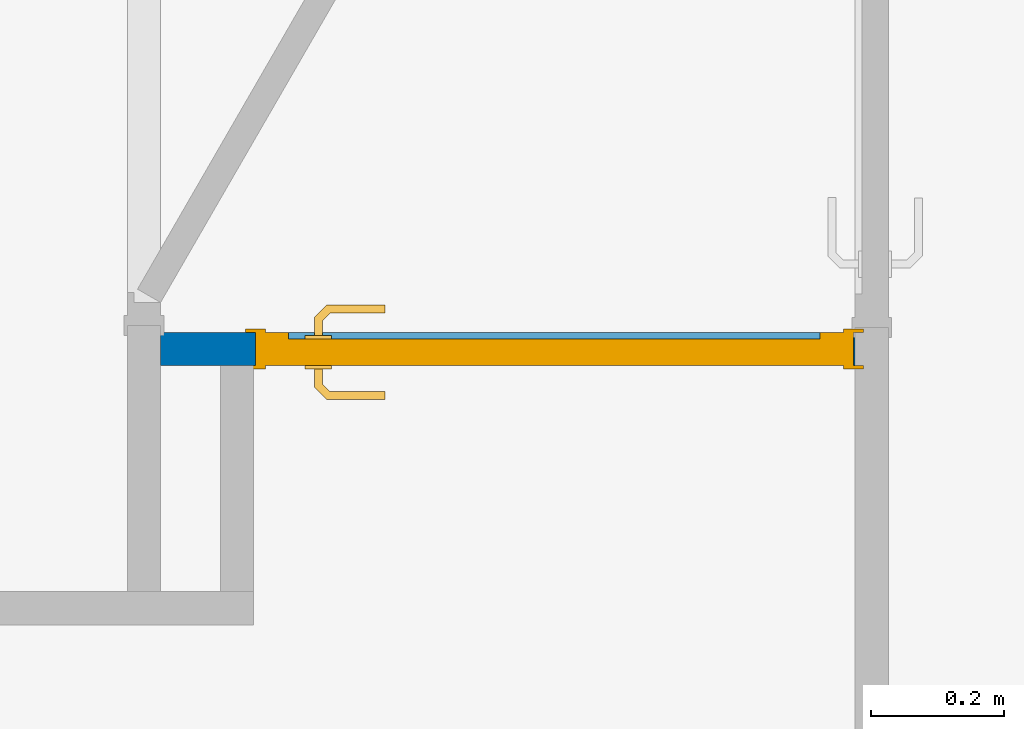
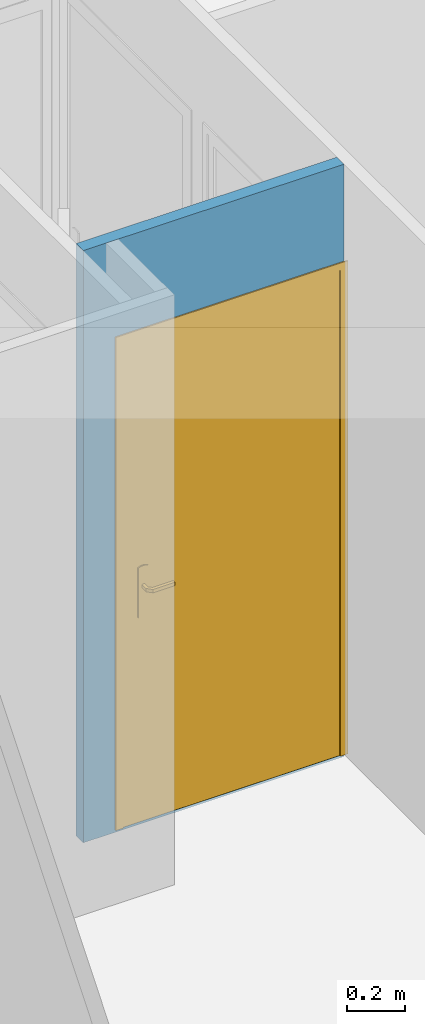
# One storey, part 2 of 13: 1 door, 1 wall, 1 opening.
"""IFC2X3 building model written with IfcOpenShell, lengths in metres."""

from ifc_helpers import new_model, entity, si_unit, converted_unit, derived_unit, direction, frame, frame_2d, origin, place, context, subcontext, project, spatial, rectangle, extrude, faceted_brep, source, transform, mapped, material, material_list, layer, layer_set, layer_usage, type_object, type_shapes, element, fill, save


model = new_model("IFC2X3")

# Units and contexts
model_context = context("Model", 3, precision=1e-05, world=origin(), true_north=direction((6.12303176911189e-17, 1.0)))
body_context = subcontext(model_context, "Body", "Model", "MODEL_VIEW")
ifc_project = project(units=[si_unit("LENGTHUNIT", "METRE"), si_unit("AREAUNIT", "SQUARE_METRE"), si_unit("VOLUMEUNIT", "CUBIC_METRE"), converted_unit("PLANEANGLEUNIT", "DEGREE", entity("IfcRatioMeasure", 0.0174532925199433), si_unit("PLANEANGLEUNIT", "RADIAN"), dimensions=[0, 0, 0, 0, 0, 0, 0]), si_unit("MASSUNIT", "GRAM", prefix="KILO"), si_unit("TIMEUNIT", "SECOND"), si_unit("FREQUENCYUNIT", "HERTZ"), si_unit("THERMODYNAMICTEMPERATUREUNIT", "DEGREE_CELSIUS"), derived_unit("THERMALTRANSMITTANCEUNIT", [(si_unit("MASSUNIT", "GRAM", prefix="KILO"), 1), (si_unit("THERMODYNAMICTEMPERATUREUNIT", "KELVIN"), -1), (si_unit("TIMEUNIT", "SECOND"), -3)]), derived_unit("VOLUMETRICFLOWRATEUNIT", [(si_unit("LENGTHUNIT", "METRE"), 3), (si_unit("TIMEUNIT", "SECOND"), -1)]), si_unit("ELECTRICCURRENTUNIT", "AMPERE"), si_unit("ELECTRICVOLTAGEUNIT", "VOLT"), si_unit("POWERUNIT", "WATT"), si_unit("FORCEUNIT", "NEWTON", prefix="KILO"), si_unit("ILLUMINANCEUNIT", "LUX"), si_unit("LUMINOUSFLUXUNIT", "LUMEN"), si_unit("LUMINOUSINTENSITYUNIT", "CANDELA"), derived_unit("USERDEFINED", [(si_unit("MASSUNIT", "GRAM", prefix="KILO"), -1), (si_unit("LENGTHUNIT", "METRE"), -2), (si_unit("TIMEUNIT", "SECOND"), 3), (si_unit("LUMINOUSFLUXUNIT", "LUMEN"), 1)]), derived_unit("LINEARVELOCITYUNIT", [(si_unit("LENGTHUNIT", "METRE"), 1), (si_unit("TIMEUNIT", "SECOND"), -1)]), si_unit("PRESSUREUNIT", "PASCAL"), derived_unit("USERDEFINED", [(si_unit("LENGTHUNIT", "METRE"), -2), (si_unit("MASSUNIT", "GRAM", prefix="KILO"), 1), (si_unit("TIMEUNIT", "SECOND"), -2)])], contexts=[model_context])

# Site, building, storey
site_placement = place(None, origin())
site = spatial("IfcSite", under=ifc_project, at=site_placement, Name="Surface", CompositionType="ELEMENT")
building_placement = place(site_placement, origin())
building = spatial("IfcBuilding", under=site, at=building_placement, CompositionType="ELEMENT")
storey_placement = place(building_placement, frame((0.0, 0.0, 2.74)))
storey = spatial("IfcBuildingStorey", under=building, at=storey_placement, Name="Plan étage", CompositionType="ELEMENT", Elevation=2.74)

# Wall, opening, door
ifc_material_1 = material(Name="Maçonnerie - Isolant(1)")
ifc_layer = layer(ifc_material_1, 0.05)
ifc_layer_set = layer_set([ifc_layer], Name="Mur de base:Int. plâtre 50 mm")
ifc_layer_usage = layer_usage(ifc_layer_set, "AXIS2", "NEGATIVE", 0.025)
wall_type = type_object("IfcWallType", Name="Mur de base:Int. plâtre 50 mm", PredefinedType="STANDARD", material=ifc_layer_set)
wall_placement = place(storey_placement, frame((-9.24108881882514, 0.439255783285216, -0.00999999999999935)))
wall = element("IfcWallStandardCase", 1, at=wall_placement, inside=storey, type_object=wall_type, material=ifc_layer_usage, Name="Mur de base:Int. plâtre 50 mm", ObjectType="Mur de base:Int. plâtre 50 mm", context=body_context, shape_type="SweptSolid", body=[
    extrude(rectangle(XDim=1.045, YDim=0.05, at=frame_2d((0.522499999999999, 0.0), x_axis=(-1.0, 0.0))), origin(), (0.0, 0.0, 1.0), 2.51),
])
opening_placement = place(wall_placement, frame((1.04250000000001, 0.025, 0.00999999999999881)))
opening = element("IfcOpeningElement", 2, at=opening_placement, cuts=wall, Name="Int. Simple:PP (0.83m x 2.04m):1", ObjectType="Opening", context=body_context, shape_type="SweptSolid", body=[
    extrude(rectangle(XDim=2.075, YDim=0.9, at=frame_2d((1.0375, 0.45), x_axis=(1.0, 0.0))), frame((0.0, 0.0, 0.0), z_axis=(0.0, -1.0, 0.0), x_axis=(0.0, 0.0, 1.0)), (0.0, 0.0, 1.0), 0.05),
])
ifc_material_2 = material(Name="Finition Peinture - Blanc satiné")
ifc_material_3 = material(Name="Bois - Panneau de porte")
ifc_material_4 = material(Name="Bois - Cadre de porte")
ifc_material_list_1 = material_list([ifc_material_2, ifc_material_3, ifc_material_4])
ifc_material_list_2 = material_list([ifc_material_2, ifc_material_3, ifc_material_4])
door_style = type_object("IfcDoorStyle", Name="PP (0.83m x 2.04m)", ConstructionType="NOTDEFINED", OperationType="SINGLE_SWING_LEFT", ParameterTakesPrecedence=False, Sizeable=False, material=ifc_material_list_2)
shared_shape = source(origin(), body_context, "Body", "Brep", [
    faceted_brep([(0.105352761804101, -0.00500000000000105, 0.866003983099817), (0.115, -0.00500000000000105, 0.870000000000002), (0.114999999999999, -0.00500000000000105, 1.08), (0.1053527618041, -0.00500000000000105, 1.08399601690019), (0.0949999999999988, -0.00500000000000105, 1.08535898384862), (0.0846472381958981, -0.00500000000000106, 1.08399601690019), (0.0749999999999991, -0.00500000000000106, 1.08), (0.0750000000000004, -0.00500000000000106, 0.870000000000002), (0.0846472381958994, -0.00500000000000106, 0.866003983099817), (0.0950000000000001, -0.00500000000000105, 0.86464101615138), (0.1053527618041, 0.0, 1.08399601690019), (0.114999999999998, 0.0, 1.08), (0.115, 0.0, 0.870000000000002), (0.105352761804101, 0.0, 0.866003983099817), (0.0950000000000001, 0.0, 0.86464101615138), (0.0846472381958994, 0.0, 0.866003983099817), (0.0749999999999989, 0.0, 0.870000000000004), (0.0749999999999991, 0.0, 1.08), (0.0846472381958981, 0.0, 1.08399601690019), (0.0949999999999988, 0.0, 1.08535898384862)], [[[0, 1, 2, 3, 4, 5, 6, 7, 8, 9]], [[10, 11, 12, 13, 14, 15, 16, 17, 18, 19]], [[16, 15, 8, 7]], [[8, 15, 14, 9]], [[14, 13, 0, 9]], [[13, 12, 1, 0]], [[2, 1, 12, 11]], [[11, 10, 3, 2]], [[3, 10, 19, 4]], [[19, 18, 5, 4]], [[18, 17, 6, 5]], [[7, 6, 17, 16]]]),
    faceted_brep([(0.105352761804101, 0.0399999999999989, 0.866003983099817), (0.115, 0.0399999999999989, 0.870000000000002), (0.114999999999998, 0.0399999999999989, 1.08), (0.105352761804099, 0.0399999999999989, 1.08399601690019), (0.0949999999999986, 0.0399999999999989, 1.08535898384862), (0.084647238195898, 0.0399999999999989, 1.08399601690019), (0.0749999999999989, 0.0399999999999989, 1.08), (0.0750000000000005, 0.0399999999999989, 0.870000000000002), (0.0846472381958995, 0.0399999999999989, 0.866003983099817), (0.0950000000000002, 0.0399999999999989, 0.86464101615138), (0.105352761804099, 0.0449999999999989, 1.08399601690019), (0.114999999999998, 0.0449999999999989, 1.08), (0.115, 0.0449999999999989, 0.870000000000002), (0.105352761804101, 0.0449999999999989, 0.866003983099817), (0.0950000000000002, 0.0449999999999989, 0.86464101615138), (0.0846472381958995, 0.0449999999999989, 0.866003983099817), (0.0749999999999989, 0.0449999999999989, 0.870000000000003), (0.0749999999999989, 0.0449999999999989, 1.08), (0.084647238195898, 0.0449999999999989, 1.08399601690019), (0.0949999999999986, 0.0449999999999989, 1.08535898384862)], [[[0, 1, 2, 3, 4, 5, 6, 7, 8, 9]], [[10, 11, 12, 13, 14, 15, 16, 17, 18, 19]], [[11, 10, 3, 2]], [[3, 10, 19, 4]], [[19, 18, 5, 4]], [[18, 17, 6, 5]], [[7, 6, 17, 16]], [[16, 15, 8, 7]], [[8, 15, 14, 9]], [[14, 13, 0, 9]], [[13, 12, 1, 0]], [[2, 1, 12, 11]]]),
    faceted_brep([(0.0929747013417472, -0.00500000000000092, 1.00778044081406), (0.0970252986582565, -0.0050000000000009, 1.00778044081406), (0.101000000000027, -0.00500000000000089, 1.00699999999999), (0.101000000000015, -0.00500000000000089, 0.993000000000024), (0.0970252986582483, -0.0050000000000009, 0.992219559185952), (0.0929747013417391, -0.00500000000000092, 0.99221955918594), (0.0889999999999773, -0.00500000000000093, 0.992999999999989), (0.0889999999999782, -0.00500000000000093, 1.007), (0.0889999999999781, -0.0326509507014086, 1.007), (0.092974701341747, -0.0310045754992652, 1.00778044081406), (0.10902358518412, -0.0470534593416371, 1.00778044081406), (0.110701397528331, -0.0430028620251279, 1.00778044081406), (0.0970252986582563, -0.0293267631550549, 1.00778044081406), (0.101000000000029, -0.0276803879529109, 1.007), (0.101000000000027, -0.0276803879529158, 0.993000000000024), (0.0970252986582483, -0.0293267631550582, 0.992219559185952), (0.110701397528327, -0.0430028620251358, 0.992219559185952), (0.109023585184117, -0.047053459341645, 0.99221955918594), (0.0929747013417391, -0.0310045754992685, 0.99221955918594), (0.0889999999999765, -0.0326509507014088, 0.992999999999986), (0.107377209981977, -0.0510281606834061, 1.007), (0.112347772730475, -0.0390281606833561, 1.007), (0.112347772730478, -0.0390281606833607, 0.993000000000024), (0.107377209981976, -0.0510281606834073, 0.992999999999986), (0.195018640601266, -0.0510281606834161, 0.992999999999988), (0.195018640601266, -0.0470534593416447, 0.99221955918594), (0.195018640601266, -0.0430028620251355, 0.992219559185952), (0.195018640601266, -0.039028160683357, 0.993000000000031), (0.195018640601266, -0.0390281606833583, 1.007), (0.195018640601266, -0.0430028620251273, 1.00778044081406), (0.195018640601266, -0.0470534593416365, 1.00778044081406), (0.195018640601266, -0.0510281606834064, 1.00699999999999), (0.147307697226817, -0.0510281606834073, 1.007), (0.152860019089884, -0.045028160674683, 1.0078786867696), (0.15368320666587, -0.039028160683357, 1.007), (0.153683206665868, -0.0390281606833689, 0.993000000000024), (0.152860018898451, -0.0450281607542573, 0.992121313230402), (0.147307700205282, -0.0510281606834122, 0.992999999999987)], [[[0, 1, 2, 3, 4, 5, 6, 7]], [[8, 9, 0, 7]], [[9, 10, 11, 12, 1, 0]], [[12, 13, 2, 1]], [[3, 2, 13, 14]], [[14, 15, 4, 3]], [[15, 16, 17, 18, 5, 4]], [[18, 19, 6, 5]], [[7, 6, 19, 8]], [[20, 10, 9, 8]], [[11, 21, 13, 12]], [[14, 13, 21, 22]], [[22, 16, 15, 14]], [[17, 23, 19, 18]], [[8, 19, 23, 20]], [[24, 25, 26, 27, 28, 29, 30, 31]], [[32, 30, 33]], [[31, 30, 32]], [[10, 20, 32]], [[33, 34, 11]], [[21, 11, 34]], [[34, 29, 28]], [[30, 29, 33]], [[29, 34, 33]], [[10, 32, 33]], [[10, 33, 11]], [[22, 21, 34, 28, 27, 35]], [[35, 26, 36]], [[37, 36, 25]], [[22, 35, 16]], [[35, 27, 26]], [[24, 37, 25]], [[23, 17, 37]], [[37, 17, 36]], [[17, 16, 36]], [[16, 35, 36]], [[25, 36, 26]], [[20, 23, 37, 24, 31, 32]]]),
    faceted_brep([(0.0929747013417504, 0.0449999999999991, 1.00778044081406), (0.0889999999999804, 0.044999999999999, 1.007), (0.0889999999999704, 0.044999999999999, 0.992999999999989), (0.0929747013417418, 0.0449999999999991, 0.99221955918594), (0.0970252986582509, 0.0449999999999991, 0.992219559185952), (0.10100000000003, 0.0449999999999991, 0.993000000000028), (0.101000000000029, 0.0449999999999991, 1.007), (0.0970252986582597, 0.0449999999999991, 1.00778044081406), (0.10100000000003, 0.067485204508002, 0.993000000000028), (0.10100000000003, 0.0674852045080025, 1.007), (0.0970252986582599, 0.0691315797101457, 1.00778044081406), (0.110838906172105, 0.0829451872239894, 1.00778044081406), (0.109161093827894, 0.0869957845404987, 1.00778044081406), (0.0929747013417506, 0.070809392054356, 1.00778044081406), (0.0889999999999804, 0.0724557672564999, 1.007), (0.0889999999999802, 0.072455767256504, 0.992999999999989), (0.0929747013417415, 0.0708093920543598, 0.99221955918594), (0.109161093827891, 0.0869957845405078, 0.99221955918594), (0.110838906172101, 0.0829451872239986, 0.992219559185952), (0.0970252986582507, 0.0691315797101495, 0.992219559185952), (0.112485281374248, 0.0789704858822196, 0.993000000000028), (0.112485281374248, 0.0789704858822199, 1.007), (0.107514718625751, 0.0909704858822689, 1.007), (0.107514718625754, 0.090970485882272, 0.992999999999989), (0.195045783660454, 0.0789704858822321, 0.993000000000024), (0.195045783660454, 0.0829451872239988, 0.992219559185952), (0.195045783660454, 0.086995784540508, 0.99221955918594), (0.195045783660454, 0.0909704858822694, 0.992999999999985), (0.195045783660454, 0.0909704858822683, 1.007), (0.195045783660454, 0.0869957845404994, 1.00778044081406), (0.195045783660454, 0.0829451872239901, 1.00778044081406), (0.195045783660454, 0.0789704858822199, 1.007), (0.153765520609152, 0.0789704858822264, 0.993000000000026), (0.153765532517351, 0.0789704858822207, 1.007), (0.152942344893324, 0.0849704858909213, 1.0078786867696), (0.147445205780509, 0.0909704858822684, 1.007), (0.147445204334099, 0.0909704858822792, 0.992999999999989), (0.152942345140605, 0.0849704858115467, 0.992121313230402)], [[[0, 1, 2, 3, 4, 5, 6, 7]], [[6, 5, 8, 9]], [[9, 10, 7, 6]], [[10, 11, 12, 13, 0, 7]], [[13, 14, 1, 0]], [[2, 1, 14, 15]], [[15, 16, 3, 2]], [[16, 17, 18, 19, 4, 3]], [[19, 8, 5, 4]], [[9, 8, 20, 21]], [[21, 11, 10, 9]], [[12, 22, 14, 13]], [[15, 14, 22, 23]], [[23, 17, 16, 15]], [[18, 20, 8, 19]], [[24, 25, 26, 27, 28, 29, 30, 31]], [[21, 20, 32, 24, 31, 33]], [[33, 30, 34]], [[35, 34, 29]], [[21, 33, 11]], [[33, 31, 30]], [[28, 35, 29]], [[22, 12, 35]], [[35, 12, 34]], [[12, 11, 34]], [[11, 33, 34]], [[29, 34, 30]], [[22, 35, 28, 27, 36, 23]], [[36, 26, 37]], [[27, 26, 36]], [[17, 23, 36]], [[37, 32, 18]], [[20, 18, 32]], [[32, 25, 24]], [[26, 25, 37]], [[25, 32, 37]], [[17, 36, 37]], [[17, 37, 18]]]),
    faceted_brep([(0.034999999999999, 0.04, 2.04), (0.865, 0.04, 2.04), (0.864999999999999, 0.04, 0.0), (0.034999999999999, 0.04, 0.0), (0.034999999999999, 0.0, 2.04), (0.034999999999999, 0.0, 0.0), (0.864999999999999, 0.0, 0.0), (0.865, 0.0, 2.04)], [[[0, 1, 2, 3]], [[4, 5, 6, 7]], [[1, 0, 4, 7]], [[2, 1, 7, 6]], [[3, 2, 6, 5]], [[0, 3, 5, 4]]]),
    faceted_brep([(0.0, 0.0, 0.0), (0.0, 0.050000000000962, 0.0), (0.0499999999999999, 0.050000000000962, 0.0), (0.0499999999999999, 0.040000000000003, 0.0), (0.0349999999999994, 0.040000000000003, 0.0), (0.0349999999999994, 0.0, 0.0), (0.0, 0.0, 2.07500000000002), (0.0, 0.050000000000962, 2.07500000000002), (0.900000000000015, 0.050000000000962, 2.07500000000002), (0.900000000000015, 0.050000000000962, 0.0), (0.85, 0.050000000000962, 0.0), (0.85, 0.050000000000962, 2.025), (0.0500000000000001, 0.050000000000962, 2.025), (0.05, 0.040000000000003, 2.025), (0.85, 0.040000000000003, 2.025), (0.85, 0.040000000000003, 0.0), (0.865, 0.040000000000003, 0.0), (0.865, 0.040000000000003, 2.04), (0.0349999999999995, 0.040000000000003, 2.04), (0.0349999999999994, 0.0, 2.04), (0.865, 0.0, 2.04), (0.865, 0.0, 0.0), (0.900000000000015, 0.0, 0.0), (0.900000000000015, 0.0, 2.07500000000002)], [[[0, 1, 2, 3, 4, 5]], [[1, 0, 6, 7]], [[2, 1, 7, 8, 9, 10, 11, 12]], [[3, 2, 12, 13]], [[4, 3, 13, 14, 15, 16, 17, 18]], [[5, 4, 18, 19]], [[0, 5, 19, 20, 21, 22, 23, 6]], [[8, 23, 22, 9]], [[22, 21, 16, 15, 10, 9]], [[14, 11, 10, 15]], [[20, 17, 16, 21]], [[7, 6, 23, 8]], [[13, 12, 11, 14]], [[19, 18, 17, 20]]]),
    faceted_brep([(0.0149999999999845, 0.050000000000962, 0.0), (-0.0150000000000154, 0.050000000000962, 0.0), (-0.0150000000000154, 0.055000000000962, 0.0), (0.0149999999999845, 0.055000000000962, 0.0), (0.0149999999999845, 0.050000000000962, 2.06000000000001), (0.884999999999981, 0.050000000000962, 2.06000000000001), (0.88499999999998, 0.050000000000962, 0.0), (0.91499999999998, 0.050000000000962, 0.0), (0.91499999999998, 0.050000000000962, 2.09000000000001), (-0.0150000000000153, 0.050000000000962, 2.09000000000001), (-0.0150000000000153, 0.055000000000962, 2.09000000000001), (0.91499999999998, 0.055000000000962, 2.09000000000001), (0.91499999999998, 0.055000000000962, 0.0), (0.88499999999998, 0.055000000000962, 0.0), (0.88499999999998, 0.055000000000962, 2.06000000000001), (0.0149999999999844, 0.055000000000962, 2.06000000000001)], [[[0, 1, 2, 3]], [[1, 0, 4, 5, 6, 7, 8, 9]], [[2, 1, 9, 10]], [[3, 2, 10, 11, 12, 13, 14, 15]], [[0, 3, 15, 4]], [[6, 13, 12, 7]], [[5, 14, 13, 6]], [[11, 8, 7, 12]], [[10, 9, 8, 11]], [[4, 15, 14, 5]]]),
    faceted_brep([(-0.0150000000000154, -0.005, 0.0), (0.0149999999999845, -0.005, 0.0), (0.0149999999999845, -0.005, 2.06000000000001), (0.884999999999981, -0.005, 2.06000000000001), (0.88499999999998, -0.005, 0.0), (0.91499999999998, -0.005, 0.0), (0.91499999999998, -0.005, 2.09000000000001), (-0.0150000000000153, -0.005, 2.09000000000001), (-0.0150000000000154, 0.0, 0.0), (-0.0150000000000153, 0.0, 2.09000000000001), (0.0149999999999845, 0.0, 0.0), (0.91499999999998, 0.0, 2.09000000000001), (0.91499999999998, 0.0, 0.0), (0.88499999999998, 0.0, 0.0), (0.88499999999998, 0.0, 2.06000000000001), (0.0149999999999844, 0.0, 2.06000000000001)], [[[0, 1, 2, 3, 4, 5, 6, 7]], [[8, 0, 7, 9]], [[10, 8, 9, 11, 12, 13, 14, 15]], [[1, 10, 15, 2]], [[3, 14, 13, 4]], [[11, 6, 5, 12]], [[9, 7, 6, 11]], [[2, 15, 14, 3]], [[4, 13, 12, 5]], [[1, 0, 8, 10]]]),
])
type_shapes(door_style, [shared_shape])
door_placement = place(opening_placement, frame((-0.899999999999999, -0.05, 0.0)))
door = element("IfcDoor", 3, at=door_placement, inside=storey, type_object=door_style, material=ifc_material_list_1, Name="Int. Simple:PP (0.83m x 2.04m)", ObjectType="PP (0.83m x 2.04m)", OverallHeight=2.075, OverallWidth=0.9, context=body_context, shape_type="MappedRepresentation", body=[
    mapped(shared_shape, transform((0.0, 0.0, 0.0), scale=1.0)),
])
fill(opening, door)

save(model, "model.ifc")
